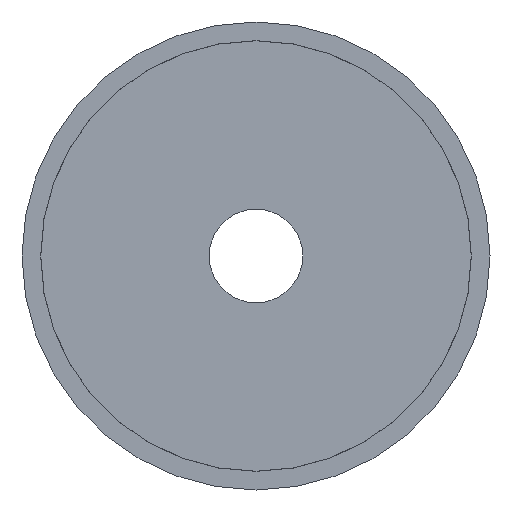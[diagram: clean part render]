
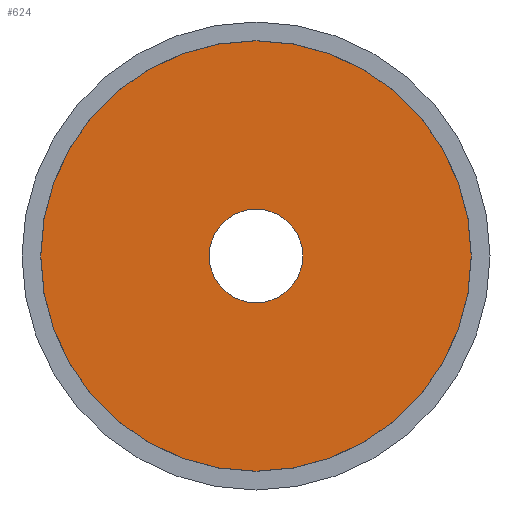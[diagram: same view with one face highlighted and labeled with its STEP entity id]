
A CAD part, front view. The second image highlights one B-rep face of the part: STEP entity #624.
In plain terms, the highlighted planar face has unit normal (0, -1, 0).
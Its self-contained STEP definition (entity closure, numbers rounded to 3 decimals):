
#20 = DIRECTION ( 'NONE',  ( 0., 1., 0. ) ) ;
#32 = DIRECTION ( 'NONE',  ( 0., 0., -1. ) ) ;
#41 = AXIS2_PLACEMENT_3D ( 'NONE', #435, #894, #446 ) ;
#47 = EDGE_LOOP ( 'NONE', ( #230, #712 ) ) ;
#80 = VERTEX_POINT ( 'NONE', #382 ) ;
#119 = DIRECTION ( 'NONE',  ( -1., 0., 0. ) ) ;
#121 = EDGE_CURVE ( 'NONE', #417, #520, #165, .T. ) ;
#141 = FACE_BOUND ( 'NONE', #47, .T. ) ;
#149 = DIRECTION ( 'NONE',  ( 0., 0., -1. ) ) ;
#165 = CIRCLE ( 'NONE', #278, 22.99 ) ;
#180 = AXIS2_PLACEMENT_3D ( 'NONE', #455, #20, #315 ) ;
#230 = ORIENTED_EDGE ( 'NONE', *, *, #456, .T. ) ;
#231 = ORIENTED_EDGE ( 'NONE', *, *, #605, .T. ) ;
#252 = ORIENTED_EDGE ( 'NONE', *, *, #121, .T. ) ;
#260 = CIRCLE ( 'NONE', #801, 5. ) ;
#278 = AXIS2_PLACEMENT_3D ( 'NONE', #915, #467, #32 ) ;
#302 = FACE_OUTER_BOUND ( 'NONE', #477, .T. ) ;
#315 = DIRECTION ( 'NONE',  ( -1., 0., 0. ) ) ;
#327 = EDGE_CURVE ( 'NONE', #552, #80, #260, .T. ) ;
#351 = AXIS2_PLACEMENT_3D ( 'NONE', #443, #752, #149 ) ;
#382 = CARTESIAN_POINT ( 'NONE',  ( -5., -15., 0. ) ) ;
#407 = CIRCLE ( 'NONE', #180, 5. ) ;
#417 = VERTEX_POINT ( 'NONE', #807 ) ;
#435 = CARTESIAN_POINT ( 'NONE',  ( -25., -15., 0. ) ) ;
#443 = CARTESIAN_POINT ( 'NONE',  ( 0., -15., 0. ) ) ;
#446 = DIRECTION ( 'NONE',  ( 1., 0., 0. ) ) ;
#455 = CARTESIAN_POINT ( 'NONE',  ( 0., -15., 0. ) ) ;
#456 = EDGE_CURVE ( 'NONE', #80, #552, #407, .T. ) ;
#467 = DIRECTION ( 'NONE',  ( 0., -1., 0. ) ) ;
#477 = EDGE_LOOP ( 'NONE', ( #231, #252 ) ) ;
#520 = VERTEX_POINT ( 'NONE', #828 ) ;
#552 = VERTEX_POINT ( 'NONE', #875 ) ;
#560 = DIRECTION ( 'NONE',  ( 0., 1., 0. ) ) ;
#605 = EDGE_CURVE ( 'NONE', #520, #417, #663, .T. ) ;
#624 = ADVANCED_FACE ( 'NONE', ( #141, #302 ), #669, .T. ) ;
#663 = CIRCLE ( 'NONE', #351, 22.99 ) ;
#669 = PLANE ( 'NONE',  #41 ) ;
#712 = ORIENTED_EDGE ( 'NONE', *, *, #327, .T. ) ;
#735 = CARTESIAN_POINT ( 'NONE',  ( 0., -15., 0. ) ) ;
#752 = DIRECTION ( 'NONE',  ( 0., -1., 0. ) ) ;
#801 = AXIS2_PLACEMENT_3D ( 'NONE', #735, #560, #119 ) ;
#807 = CARTESIAN_POINT ( 'NONE',  ( 0., -15., 22.99 ) ) ;
#828 = CARTESIAN_POINT ( 'NONE',  ( 0., -15., -22.99 ) ) ;
#875 = CARTESIAN_POINT ( 'NONE',  ( 5., -15., 0. ) ) ;
#894 = DIRECTION ( 'NONE',  ( 0., -1., 0. ) ) ;
#915 = CARTESIAN_POINT ( 'NONE',  ( 0., -15., 0. ) ) ;
